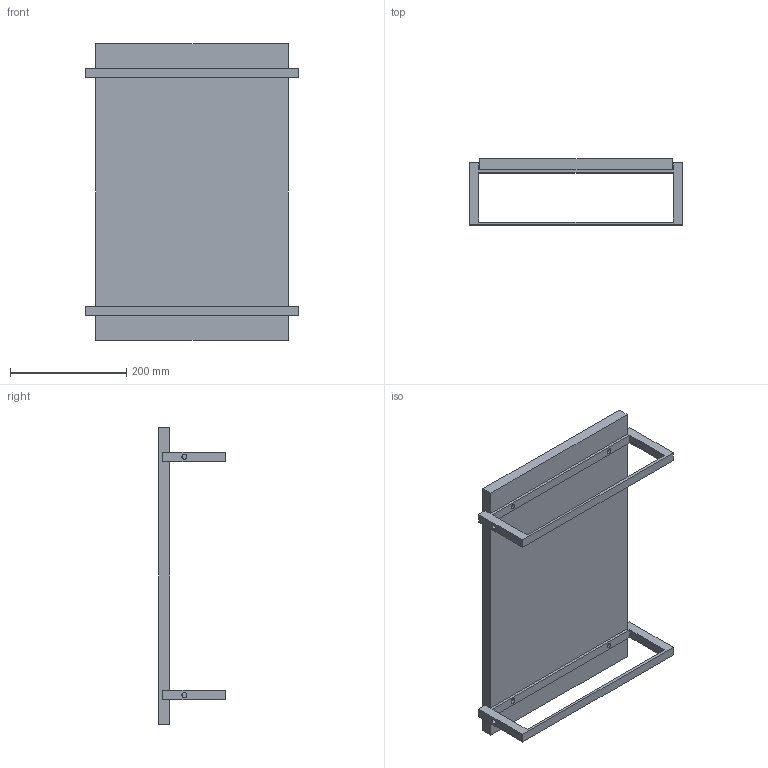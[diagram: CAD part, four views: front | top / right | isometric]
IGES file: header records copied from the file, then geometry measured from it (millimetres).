
Start section: SolidWorks IGES file using analytic representation for surfaces
Global section: file name: C:\Users\hcaixa\Documents\Gabinete Tecnico\72_produtos cliente\Timsteel\Estantes\Estantes  Q16\Q16 versão catalogo\Assemblys\IGS\Novas Peças\Head-UP- Base Monitor.IGS; native system: SolidWorks 2014; preprocessor: SolidWorks 2014; author: hcaixa; date: 190918.083523; units: millimetre
Bounding box: 367 x 114 x 510 mm (x, y, z)
Surface area: 456624.9 mm2 (no closed solid volume)
Topology: 0 solids, 0 shells, 58 faces, 824 edges, 824 vertices
Faces by surface type: bspline 38, revolution 20
